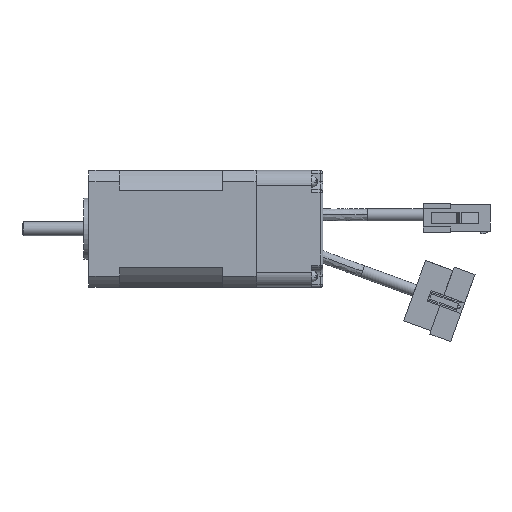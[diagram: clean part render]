
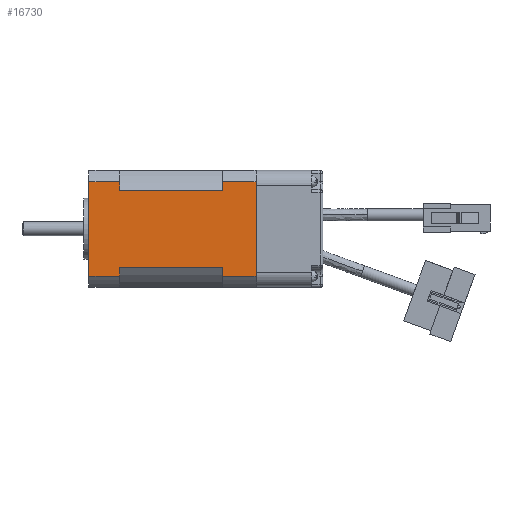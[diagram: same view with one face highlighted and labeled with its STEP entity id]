
A CAD part, front view. The second image highlights one B-rep face of the part: STEP entity #16730.
In plain terms, the highlighted planar face has unit normal (0, -1, 0).
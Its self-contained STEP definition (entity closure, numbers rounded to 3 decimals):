
#40 = VECTOR ( 'NONE', #7801, 1000. ) ;
#386 = VERTEX_POINT ( 'NONE', #8396 ) ;
#540 = EDGE_CURVE ( 'NONE', #11411, #386, #21223, .T. ) ;
#679 = CARTESIAN_POINT ( 'NONE',  ( 4.029, 0., 49. ) ) ;
#1336 = VERTEX_POINT ( 'NONE', #20157 ) ;
#1429 = VERTEX_POINT ( 'NONE', #9554 ) ;
#1574 = CARTESIAN_POINT ( 'NONE',  ( 4.029, 0., 60. ) ) ;
#1657 = DIRECTION ( 'NONE',  ( -1., 0., 0. ) ) ;
#1682 = VECTOR ( 'NONE', #16176, 1000. ) ;
#2135 = EDGE_CURVE ( 'NONE', #5676, #11259, #4906, .T. ) ;
#2355 = LINE ( 'NONE', #5846, #6405 ) ;
#2436 = EDGE_CURVE ( 'NONE', #12594, #3025, #2991, .T. ) ;
#2788 = ORIENTED_EDGE ( 'NONE', *, *, #540, .T. ) ;
#2991 = LINE ( 'NONE', #16105, #11686 ) ;
#3025 = VERTEX_POINT ( 'NONE', #679 ) ;
#3432 = CARTESIAN_POINT ( 'NONE',  ( 7.234, 0., 49. ) ) ;
#3747 = ORIENTED_EDGE ( 'NONE', *, *, #2135, .F. ) ;
#4018 = EDGE_CURVE ( 'NONE', #18566, #386, #22487, .T. ) ;
#4288 = LINE ( 'NONE', #13726, #15202 ) ;
#4517 = VERTEX_POINT ( 'NONE', #3432 ) ;
#4906 = LINE ( 'NONE', #9449, #14177 ) ;
#5676 = VERTEX_POINT ( 'NONE', #6801 ) ;
#5846 = CARTESIAN_POINT ( 'NONE',  ( 37.971, 0., 60. ) ) ;
#5901 = EDGE_CURVE ( 'NONE', #3025, #4517, #6595, .T. ) ;
#6354 = VECTOR ( 'NONE', #12871, 1000. ) ;
#6405 = VECTOR ( 'NONE', #21622, 1000. ) ;
#6595 = LINE ( 'NONE', #11919, #6354 ) ;
#6801 = CARTESIAN_POINT ( 'NONE',  ( 4.029, 0., 12. ) ) ;
#7308 = VERTEX_POINT ( 'NONE', #13659 ) ;
#7801 = DIRECTION ( 'NONE',  ( 0., 0., -1. ) ) ;
#7948 = EDGE_CURVE ( 'NONE', #5676, #1336, #8707, .T. ) ;
#8005 = DIRECTION ( 'NONE',  ( 1., 0., 0. ) ) ;
#8155 = DIRECTION ( 'NONE',  ( 0., 0., -1. ) ) ;
#8248 = ORIENTED_EDGE ( 'NONE', *, *, #5901, .T. ) ;
#8396 = CARTESIAN_POINT ( 'NONE',  ( 37.971, 0., 49. ) ) ;
#8668 = EDGE_CURVE ( 'NONE', #12594, #18566, #21746, .T. ) ;
#8707 = LINE ( 'NONE', #12124, #40 ) ;
#8791 = ORIENTED_EDGE ( 'NONE', *, *, #10553, .F. ) ;
#9354 = CARTESIAN_POINT ( 'NONE',  ( 4.029, 0., 0. ) ) ;
#9449 = CARTESIAN_POINT ( 'NONE',  ( 4.029, 0., 12. ) ) ;
#9554 = CARTESIAN_POINT ( 'NONE',  ( 37.971, 0., 12. ) ) ;
#10283 = EDGE_LOOP ( 'NONE', ( #3747, #12172, #16971, #13821, #16223, #17460, #2788, #14239, #21998, #18549, #8248, #8791 ) ) ;
#10481 = CARTESIAN_POINT ( 'NONE',  ( 4.029, 0., 60. ) ) ;
#10553 = EDGE_CURVE ( 'NONE', #11259, #4517, #4288, .T. ) ;
#10586 = DIRECTION ( 'NONE',  ( 1., 0., 0. ) ) ;
#10725 = CARTESIAN_POINT ( 'NONE',  ( 4.029, 0., 60. ) ) ;
#11122 = CARTESIAN_POINT ( 'NONE',  ( 34.766, 0., 12. ) ) ;
#11259 = VERTEX_POINT ( 'NONE', #12243 ) ;
#11411 = VERTEX_POINT ( 'NONE', #21558 ) ;
#11431 = EDGE_CURVE ( 'NONE', #1429, #7308, #2355, .T. ) ;
#11686 = VECTOR ( 'NONE', #16052, 1000. ) ;
#11815 = PLANE ( 'NONE',  #15215 ) ;
#11919 = CARTESIAN_POINT ( 'NONE',  ( 4.029, 0., 49. ) ) ;
#12047 = DIRECTION ( 'NONE',  ( 0., 1., 0. ) ) ;
#12101 = CARTESIAN_POINT ( 'NONE',  ( 37.971, 0., 60. ) ) ;
#12124 = CARTESIAN_POINT ( 'NONE',  ( 4.029, 0., 60. ) ) ;
#12172 = ORIENTED_EDGE ( 'NONE', *, *, #7948, .T. ) ;
#12243 = CARTESIAN_POINT ( 'NONE',  ( 7.234, 0., 12. ) ) ;
#12594 = VERTEX_POINT ( 'NONE', #10725 ) ;
#12871 = DIRECTION ( 'NONE',  ( 1., 0., 0. ) ) ;
#13659 = CARTESIAN_POINT ( 'NONE',  ( 37.971, 0., 0. ) ) ;
#13726 = CARTESIAN_POINT ( 'NONE',  ( 7.234, 0., 12. ) ) ;
#13821 = ORIENTED_EDGE ( 'NONE', *, *, #11431, .F. ) ;
#14177 = VECTOR ( 'NONE', #8005, 1000. ) ;
#14239 = ORIENTED_EDGE ( 'NONE', *, *, #4018, .F. ) ;
#14406 = DIRECTION ( 'NONE',  ( 1., 0., 0. ) ) ;
#14423 = CARTESIAN_POINT ( 'NONE',  ( 34.766, 0., 12. ) ) ;
#15202 = VECTOR ( 'NONE', #20603, 1000. ) ;
#15215 = AXIS2_PLACEMENT_3D ( 'NONE', #1574, #12047, #1657 ) ;
#15564 = LINE ( 'NONE', #14423, #1682 ) ;
#16052 = DIRECTION ( 'NONE',  ( 0., 0., -1. ) ) ;
#16105 = CARTESIAN_POINT ( 'NONE',  ( 4.029, 0., 60. ) ) ;
#16176 = DIRECTION ( 'NONE',  ( 0., 0., -1. ) ) ;
#16223 = ORIENTED_EDGE ( 'NONE', *, *, #17307, .F. ) ;
#16730 = ADVANCED_FACE ( 'NONE', ( #20539 ), #11815, .F. ) ;
#16971 = ORIENTED_EDGE ( 'NONE', *, *, #16988, .T. ) ;
#16988 = EDGE_CURVE ( 'NONE', #1336, #7308, #19729, .T. ) ;
#17307 = EDGE_CURVE ( 'NONE', #18100, #1429, #18377, .T. ) ;
#17320 = VECTOR ( 'NONE', #22449, 1000. ) ;
#17460 = ORIENTED_EDGE ( 'NONE', *, *, #20741, .F. ) ;
#17921 = VECTOR ( 'NONE', #8155, 1000. ) ;
#18056 = DIRECTION ( 'NONE',  ( 1., 0., 0. ) ) ;
#18060 = CARTESIAN_POINT ( 'NONE',  ( 37.971, 0., 60. ) ) ;
#18100 = VERTEX_POINT ( 'NONE', #11122 ) ;
#18377 = LINE ( 'NONE', #20729, #17320 ) ;
#18549 = ORIENTED_EDGE ( 'NONE', *, *, #2436, .T. ) ;
#18566 = VERTEX_POINT ( 'NONE', #18060 ) ;
#19193 = VECTOR ( 'NONE', #18056, 1000. ) ;
#19729 = LINE ( 'NONE', #9354, #19193 ) ;
#20157 = CARTESIAN_POINT ( 'NONE',  ( 4.029, 0., 0. ) ) ;
#20539 = FACE_OUTER_BOUND ( 'NONE', #10283, .T. ) ;
#20603 = DIRECTION ( 'NONE',  ( 0., 0., 1. ) ) ;
#20683 = VECTOR ( 'NONE', #14406, 1000. ) ;
#20729 = CARTESIAN_POINT ( 'NONE',  ( 4.029, 0., 12. ) ) ;
#20741 = EDGE_CURVE ( 'NONE', #11411, #18100, #15564, .T. ) ;
#21043 = CARTESIAN_POINT ( 'NONE',  ( 4.029, 0., 49. ) ) ;
#21209 = VECTOR ( 'NONE', #10586, 1000. ) ;
#21223 = LINE ( 'NONE', #21043, #20683 ) ;
#21558 = CARTESIAN_POINT ( 'NONE',  ( 34.766, 0., 49. ) ) ;
#21622 = DIRECTION ( 'NONE',  ( 0., 0., -1. ) ) ;
#21746 = LINE ( 'NONE', #10481, #21209 ) ;
#21998 = ORIENTED_EDGE ( 'NONE', *, *, #8668, .F. ) ;
#22449 = DIRECTION ( 'NONE',  ( 1., 0., 0. ) ) ;
#22487 = LINE ( 'NONE', #12101, #17921 ) ;
